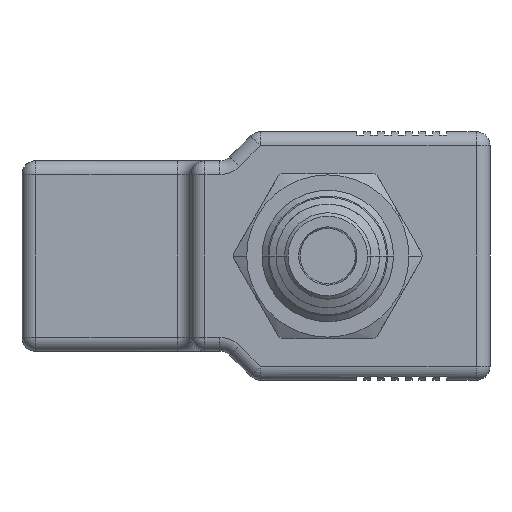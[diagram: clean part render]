
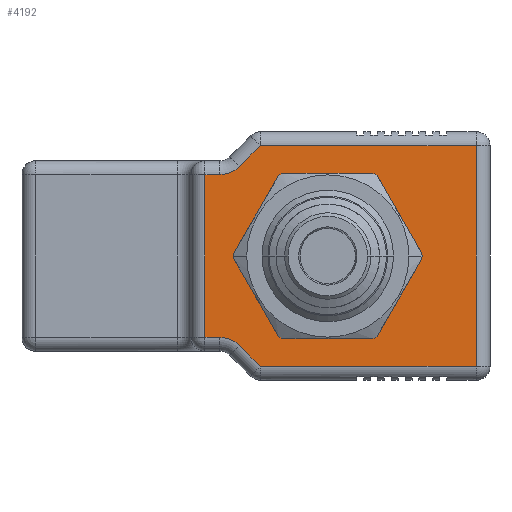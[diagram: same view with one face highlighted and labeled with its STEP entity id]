
A CAD part, left-side view. The second image highlights one B-rep face of the part: STEP entity #4192.
In plain terms, the highlighted planar face has unit normal (-1, 0, 0).
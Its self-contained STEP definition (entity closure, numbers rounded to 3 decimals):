
#842=DIRECTION('',(0.,0.707,0.707));
#843=VECTOR('',#842,4.283);
#844=CARTESIAN_POINT('',(6.5,9.772,-16.));
#845=LINE('',#844,#843);
#846=CARTESIAN_POINT('',(6.5,15.628,-15.8));
#847=DIRECTION('',(-1.,0.,0.));
#848=DIRECTION('',(0.,-0.707,0.707));
#849=AXIS2_PLACEMENT_3D('',#846,#847,#848);
#851=CARTESIAN_POINT('',(6.5,15.628,15.8));
#852=DIRECTION('',(-1.,0.,0.));
#853=DIRECTION('',(0.,0.,-1.));
#854=AXIS2_PLACEMENT_3D('',#851,#852,#853);
#856=DIRECTION('',(0.,-0.707,0.707));
#857=VECTOR('',#856,4.283);
#858=CARTESIAN_POINT('',(6.5,12.8,12.972));
#859=LINE('',#858,#857);
#860=CARTESIAN_POINT('',(6.5,0.,0.));
#861=DIRECTION('',(-1.,0.,0.));
#862=DIRECTION('',(0.,-1.,0.));
#863=AXIS2_PLACEMENT_3D('',#860,#861,#862);
#865=CARTESIAN_POINT('',(6.5,0.,0.));
#866=DIRECTION('',(-1.,0.,0.));
#867=DIRECTION('',(0.,1.,0.));
#868=AXIS2_PLACEMENT_3D('',#865,#866,#867);
#874=DIRECTION('',(0.,0.,1.));
#875=VECTOR('',#874,32.);
#876=CARTESIAN_POINT('',(6.5,-21.5,-16.));
#877=LINE('',#876,#875);
#906=DIRECTION('',(0.,1.,0.));
#907=VECTOR('',#906,31.272);
#908=CARTESIAN_POINT('',(6.5,-21.5,16.));
#909=LINE('',#908,#907);
#1156=DIRECTION('',(0.,0.,-1.));
#1157=VECTOR('',#1156,23.6);
#1158=CARTESIAN_POINT('',(6.5,17.8,11.8));
#1159=LINE('',#1158,#1157);
#1175=DIRECTION('',(0.,1.,0.));
#1176=VECTOR('',#1175,2.172);
#1177=CARTESIAN_POINT('',(6.5,15.628,11.8));
#1178=LINE('',#1177,#1176);
#1285=DIRECTION('',(0.,-1.,0.));
#1286=VECTOR('',#1285,2.172);
#1287=CARTESIAN_POINT('',(6.5,17.8,-11.8));
#1288=LINE('',#1287,#1286);
#1388=DIRECTION('',(0.,-1.,0.));
#1389=VECTOR('',#1388,31.272);
#1390=CARTESIAN_POINT('',(6.5,9.772,-16.));
#1391=LINE('',#1390,#1389);
#2637=CARTESIAN_POINT('',(6.5,-21.5,-16.));
#2638=VERTEX_POINT('',#2637);
#2639=CARTESIAN_POINT('',(6.5,-21.5,16.));
#2640=VERTEX_POINT('',#2639);
#2697=CARTESIAN_POINT('',(6.5,9.772,-16.));
#2699=VERTEX_POINT('',#2697);
#2867=CARTESIAN_POINT('',(6.5,9.772,16.));
#2868=VERTEX_POINT('',#2867);
#2897=CARTESIAN_POINT('',(6.5,12.8,-12.972));
#2898=VERTEX_POINT('',#2897);
#2899=CARTESIAN_POINT('',(6.5,15.628,-11.8));
#2900=VERTEX_POINT('',#2899);
#2901=CARTESIAN_POINT('',(6.5,17.8,-11.8));
#2902=VERTEX_POINT('',#2901);
#2903=CARTESIAN_POINT('',(6.5,17.8,11.8));
#2904=VERTEX_POINT('',#2903);
#2905=CARTESIAN_POINT('',(6.5,15.628,11.8));
#2906=VERTEX_POINT('',#2905);
#2907=CARTESIAN_POINT('',(6.5,12.8,12.972));
#2908=VERTEX_POINT('',#2907);
#2909=CARTESIAN_POINT('',(6.5,-11.75,0.));
#2910=CARTESIAN_POINT('',(6.5,11.75,0.));
#2911=VERTEX_POINT('',#2909);
#2912=VERTEX_POINT('',#2910);
#4160=CARTESIAN_POINT('',(6.5,24.3,-16.));
#4161=DIRECTION('',(-1.,0.,0.));
#4162=DIRECTION('',(0.,0.,1.));
#4163=AXIS2_PLACEMENT_3D('',#4160,#4161,#4162);
#4164=PLANE('',#4163);
#4166=ORIENTED_EDGE('',*,*,#4165,.F.);
#4168=ORIENTED_EDGE('',*,*,#4167,.F.);
#4170=ORIENTED_EDGE('',*,*,#4169,.T.);
#4172=ORIENTED_EDGE('',*,*,#4171,.T.);
#4174=ORIENTED_EDGE('',*,*,#4173,.F.);
#4176=ORIENTED_EDGE('',*,*,#4175,.F.);
#4178=ORIENTED_EDGE('',*,*,#4177,.F.);
#4180=ORIENTED_EDGE('',*,*,#4179,.T.);
#4182=ORIENTED_EDGE('',*,*,#4181,.T.);
#4184=ORIENTED_EDGE('',*,*,#4183,.F.);
#4185=EDGE_LOOP('',(#4166,#4168,#4170,#4172,#4174,#4176,#4178,#4180,#4182,
#4184));
#4186=FACE_OUTER_BOUND('',#4185,.F.);
#4188=ORIENTED_EDGE('',*,*,#4187,.T.);
#4189=ORIENTED_EDGE('',*,*,#4138,.T.);
#4190=EDGE_LOOP('',(#4188,#4189));
#4191=FACE_BOUND('',#4190,.F.);
#850=CIRCLE('',#849,4.);
#855=CIRCLE('',#854,4.);
#864=CIRCLE('',#863,11.75);
#869=CIRCLE('',#868,11.75);
#4138=EDGE_CURVE('',#2912,#2911,#869,.T.);
#4165=EDGE_CURVE('',#2638,#2640,#877,.T.);
#4167=EDGE_CURVE('',#2699,#2638,#1391,.T.);
#4169=EDGE_CURVE('',#2699,#2898,#845,.T.);
#4171=EDGE_CURVE('',#2898,#2900,#850,.T.);
#4173=EDGE_CURVE('',#2902,#2900,#1288,.T.);
#4175=EDGE_CURVE('',#2904,#2902,#1159,.T.);
#4177=EDGE_CURVE('',#2906,#2904,#1178,.T.);
#4179=EDGE_CURVE('',#2906,#2908,#855,.T.);
#4181=EDGE_CURVE('',#2908,#2868,#859,.T.);
#4183=EDGE_CURVE('',#2640,#2868,#909,.T.);
#4187=EDGE_CURVE('',#2911,#2912,#864,.T.);
#4192=ADVANCED_FACE('',(#4186,#4191),#4164,.T.);
